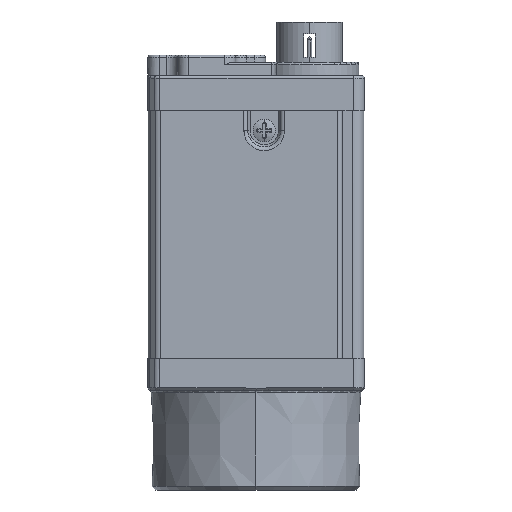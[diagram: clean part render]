
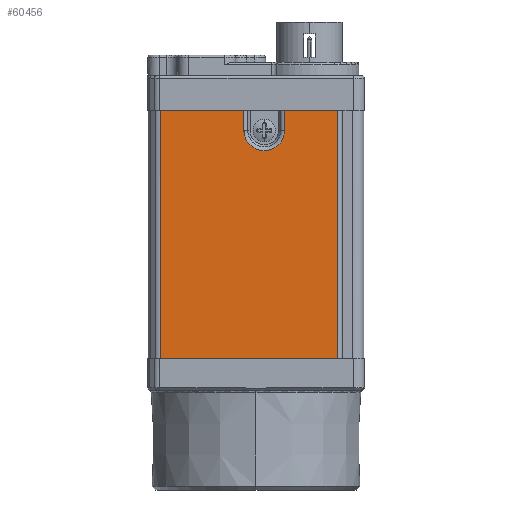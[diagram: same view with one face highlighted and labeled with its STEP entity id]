
A CAD part, left-side view. The second image highlights one B-rep face of the part: STEP entity #60456.
In plain terms, the highlighted planar face has unit normal (-1, 0, 0).
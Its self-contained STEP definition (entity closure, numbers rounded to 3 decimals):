
#14174=CARTESIAN_POINT('',(-14.5,12.786,
37.4));
#14192=DIRECTION('',(0.,1.,0.));
#14193=VECTOR('',#14192,7.142);
#14194=CARTESIAN_POINT('',(-14.5,-10.95,37.4));
#14195=LINE('',#14194,#14193);
#14200=DIRECTION('',(0.,1.,0.));
#14201=VECTOR('',#14200,11.178);
#14202=CARTESIAN_POINT('',(-14.5,1.608,37.4));
#14203=LINE('',#14202,#14201);
#14792=DIRECTION('',(0.,-1.,0.));
#14793=VECTOR('',#14792,23.736);
#14794=CARTESIAN_POINT('',(-14.5,12.786,4.2));
#14795=LINE('',#14794,#14793);
#14810=DIRECTION('',(0.,0.,1.));
#14811=VECTOR('',#14810,33.2);
#14812=CARTESIAN_POINT('',(-14.5,12.786,4.2));
#14813=LINE('',#14812,#14811);
#14814=CARTESIAN_POINT('',(-14.5,-1.1,34.7));
#14815=DIRECTION('',(-1.,0.,0.));
#14816=DIRECTION('',(0.,1.,0.));
#14817=AXIS2_PLACEMENT_3D('',#14814,#14815,#14816);
#14819=CARTESIAN_POINT('',(-14.5,-1.1,34.7));
#14820=DIRECTION('',(-1.,0.,0.));
#14821=DIRECTION('',(0.,0.995,-0.102));
#14822=AXIS2_PLACEMENT_3D('',#14819,#14820,#14821);
#14824=DIRECTION('',(0.,0.,1.));
#14825=VECTOR('',#14824,33.2);
#14826=CARTESIAN_POINT('',(-14.5,-10.95,4.2));
#14827=LINE('',#14826,#14825);
#14882=DIRECTION('',(0.,0.,1.));
#14883=VECTOR('',#14882,2.7);
#14884=CARTESIAN_POINT('',(-14.5,1.608,34.7));
#14885=LINE('',#14884,#14883);
#14908=DIRECTION('',(0.,0.,-1.));
#14909=VECTOR('',#14908,2.7);
#14910=CARTESIAN_POINT('',(-14.5,-3.808,37.4));
#14911=LINE('',#14910,#14909);
#25697=VERTEX_POINT('',#14174);
#25702=CARTESIAN_POINT('',(-14.5,-10.95,37.4));
#25703=VERTEX_POINT('',#25702);
#25704=CARTESIAN_POINT('',(-14.5,-3.808,37.4));
#25705=VERTEX_POINT('',#25704);
#25706=CARTESIAN_POINT('',(-14.5,1.608,37.4));
#25707=VERTEX_POINT('',#25706);
#25708=CARTESIAN_POINT('',(-14.5,12.786,4.2));
#25709=VERTEX_POINT('',#25708);
#25710=CARTESIAN_POINT('',(-14.5,-10.95,4.2));
#25711=VERTEX_POINT('',#25710);
#25712=CARTESIAN_POINT('',(-14.5,1.608,34.7));
#25713=VERTEX_POINT('',#25712);
#25714=CARTESIAN_POINT('',(-14.5,1.594,34.423));
#25715=VERTEX_POINT('',#25714);
#25716=CARTESIAN_POINT('',(-14.5,-3.808,34.7));
#25717=VERTEX_POINT('',#25716);
#60435=CARTESIAN_POINT('',(-14.5,0.918,20.8));
#60436=DIRECTION('',(1.,0.,0.));
#60437=DIRECTION('',(0.,1.,0.));
#60438=AXIS2_PLACEMENT_3D('',#60435,#60436,#60437);
#60439=PLANE('',#60438);
#60440=ORIENTED_EDGE('',*,*,#59108,.F.);
#60442=ORIENTED_EDGE('',*,*,#60441,.F.);
#60443=ORIENTED_EDGE('',*,*,#60418,.F.);
#60444=ORIENTED_EDGE('',*,*,#59077,.T.);
#60445=ORIENTED_EDGE('',*,*,#59112,.F.);
#60447=ORIENTED_EDGE('',*,*,#60446,.F.);
#60449=ORIENTED_EDGE('',*,*,#60448,.T.);
#60451=ORIENTED_EDGE('',*,*,#60450,.T.);
#60453=ORIENTED_EDGE('',*,*,#60452,.F.);
#60454=EDGE_LOOP('',(#60440,#60442,#60443,#60444,#60445,#60447,#60449,#60451,
#60453));
#60455=FACE_OUTER_BOUND('',#60454,.F.);
#60456=ADVANCED_FACE('',(#60455),#60439,.F.);
#14818=CIRCLE('',#14817,2.708);
#14823=CIRCLE('',#14822,2.708);
#59077=EDGE_CURVE('',#25709,#25697,#14813,.T.);
#59108=EDGE_CURVE('',#25703,#25705,#14195,.T.);
#59112=EDGE_CURVE('',#25707,#25697,#14203,.T.);
#60418=EDGE_CURVE('',#25709,#25711,#14795,.T.);
#60441=EDGE_CURVE('',#25711,#25703,#14827,.T.);
#60446=EDGE_CURVE('',#25713,#25707,#14885,.T.);
#60448=EDGE_CURVE('',#25713,#25715,#14818,.T.);
#60450=EDGE_CURVE('',#25715,#25717,#14823,.T.);
#60452=EDGE_CURVE('',#25705,#25717,#14911,.T.);
